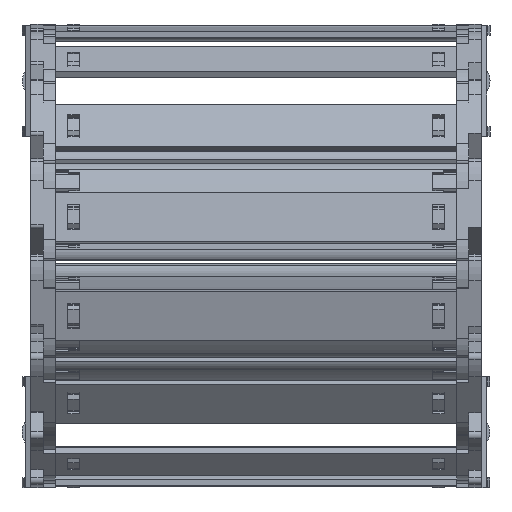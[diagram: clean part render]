
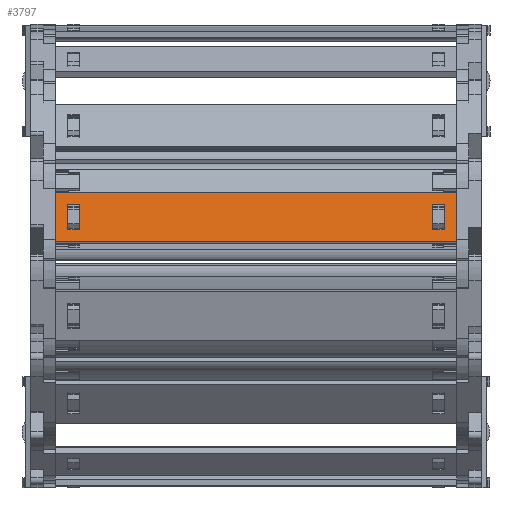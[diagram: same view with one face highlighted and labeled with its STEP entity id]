
A CAD part, top view. The second image highlights one B-rep face of the part: STEP entity #3797.
In plain terms, the highlighted planar face has unit normal (0, 0.174, 0.985) as drawn and (0, 1, 0) by its records, which use the part's own axes.
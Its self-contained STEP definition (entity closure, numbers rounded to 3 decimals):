
#2923=DIRECTION('',(0.,0.,1.));
#2924=VECTOR('',#2923,15.8);
#2925=CARTESIAN_POINT('',(110.74,1.5,-7.9));
#2926=LINE('',#2925,#2924);
#2930=DIRECTION('',(-1.,0.,0.));
#2931=VECTOR('',#2930,125.5);
#2932=CARTESIAN_POINT('',(110.74,1.5,7.9));
#2933=LINE('',#2932,#2931);
#2937=DIRECTION('',(0.,0.,-1.));
#2938=VECTOR('',#2937,15.8);
#2939=CARTESIAN_POINT('',(-14.76,1.5,7.9));
#2940=LINE('',#2939,#2938);
#2944=DIRECTION('',(1.,0.,0.));
#2945=VECTOR('',#2944,3.648);
#2946=CARTESIAN_POINT('',(103.122,1.5,4.075));
#2947=LINE('',#2946,#2945);
#2951=DIRECTION('',(0.,0.,-1.));
#2952=VECTOR('',#2951,8.15);
#2953=CARTESIAN_POINT('',(106.77,1.5,4.075));
#2954=LINE('',#2953,#2952);
#2958=DIRECTION('',(-1.,0.,0.));
#2959=VECTOR('',#2958,3.648);
#2960=CARTESIAN_POINT('',(106.77,1.5,-4.075));
#2961=LINE('',#2960,#2959);
#2965=DIRECTION('',(0.,0.,-1.));
#2966=VECTOR('',#2965,8.15);
#2967=CARTESIAN_POINT('',(-7.142,1.5,4.075));
#2968=LINE('',#2967,#2966);
#2972=DIRECTION('',(-1.,0.,0.));
#2973=VECTOR('',#2972,3.648);
#2974=CARTESIAN_POINT('',(-7.142,1.5,-4.075));
#2975=LINE('',#2974,#2973);
#2979=DIRECTION('',(0.,0.,1.));
#2980=VECTOR('',#2979,8.15);
#2981=CARTESIAN_POINT('',(-10.79,1.5,-4.075));
#2982=LINE('',#2981,#2980);
#2986=DIRECTION('',(1.,0.,0.));
#2987=VECTOR('',#2986,3.648);
#2988=CARTESIAN_POINT('',(-10.79,1.5,4.075));
#2989=LINE('',#2988,#2987);
#3000=DIRECTION('',(-1.,0.,0.));
#3001=VECTOR('',#3000,125.5);
#3002=CARTESIAN_POINT('',(110.74,1.5,-7.9));
#3003=LINE('',#3002,#3001);
#3208=DIRECTION('',(0.,0.,-1.));
#3209=VECTOR('',#3208,8.15);
#3210=CARTESIAN_POINT('',(103.122,1.5,4.075));
#3211=LINE('',#3210,#3209);
#3507=CARTESIAN_POINT('',(106.77,1.5,4.075));
#3508=VERTEX_POINT('',#3507);
#3509=CARTESIAN_POINT('',(103.122,1.5,4.075));
#3510=VERTEX_POINT('',#3509);
#3551=CARTESIAN_POINT('',(103.122,1.5,-4.075));
#3552=VERTEX_POINT('',#3551);
#3553=CARTESIAN_POINT('',(106.77,1.5,-4.075));
#3554=VERTEX_POINT('',#3553);
#3555=CARTESIAN_POINT('',(110.74,1.5,7.9));
#3557=VERTEX_POINT('',#3555);
#3559=CARTESIAN_POINT('',(110.74,1.5,-7.9));
#3560=VERTEX_POINT('',#3559);
#3583=CARTESIAN_POINT('',(-7.142,1.5,4.075));
#3584=CARTESIAN_POINT('',(-7.142,1.5,-4.075));
#3585=VERTEX_POINT('',#3583);
#3586=VERTEX_POINT('',#3584);
#3587=CARTESIAN_POINT('',(-10.79,1.5,-4.075));
#3588=VERTEX_POINT('',#3587);
#3589=CARTESIAN_POINT('',(-10.79,1.5,4.075));
#3590=VERTEX_POINT('',#3589);
#3591=CARTESIAN_POINT('',(-14.76,1.5,7.9));
#3592=VERTEX_POINT('',#3591);
#3595=CARTESIAN_POINT('',(-14.76,1.5,-7.9));
#3596=VERTEX_POINT('',#3595);
#3766=CARTESIAN_POINT('',(142.48,1.5,10.061));
#3767=DIRECTION('',(0.,-1.,0.));
#3768=DIRECTION('',(0.,0.,-1.));
#3769=AXIS2_PLACEMENT_3D('',#3766,#3767,#3768);
#3770=PLANE('',#3769);
#3771=ORIENTED_EDGE('',*,*,#3669,.T.);
#3772=ORIENTED_EDGE('',*,*,#3707,.T.);
#3773=ORIENTED_EDGE('',*,*,#3732,.T.);
#3775=ORIENTED_EDGE('',*,*,#3774,.F.);
#3776=EDGE_LOOP('',(#3771,#3772,#3773,#3775));
#3777=FACE_OUTER_BOUND('',#3776,.F.);
#3779=ORIENTED_EDGE('',*,*,#3778,.F.);
#3780=ORIENTED_EDGE('',*,*,#3608,.T.);
#3782=ORIENTED_EDGE('',*,*,#3781,.T.);
#3784=ORIENTED_EDGE('',*,*,#3783,.T.);
#3785=EDGE_LOOP('',(#3779,#3780,#3782,#3784));
#3786=FACE_BOUND('',#3785,.F.);
#3788=ORIENTED_EDGE('',*,*,#3787,.T.);
#3790=ORIENTED_EDGE('',*,*,#3789,.T.);
#3792=ORIENTED_EDGE('',*,*,#3791,.T.);
#3794=ORIENTED_EDGE('',*,*,#3793,.T.);
#3795=EDGE_LOOP('',(#3788,#3790,#3792,#3794));
#3796=FACE_BOUND('',#3795,.F.);
#3797=ADVANCED_FACE('',(#3777,#3786,#3796),#3770,.F.);
#3608=EDGE_CURVE('',#3510,#3508,#2947,.T.);
#3669=EDGE_CURVE('',#3560,#3557,#2926,.T.);
#3707=EDGE_CURVE('',#3557,#3592,#2933,.T.);
#3732=EDGE_CURVE('',#3592,#3596,#2940,.T.);
#3774=EDGE_CURVE('',#3560,#3596,#3003,.T.);
#3778=EDGE_CURVE('',#3510,#3552,#3211,.T.);
#3781=EDGE_CURVE('',#3508,#3554,#2954,.T.);
#3783=EDGE_CURVE('',#3554,#3552,#2961,.T.);
#3787=EDGE_CURVE('',#3585,#3586,#2968,.T.);
#3789=EDGE_CURVE('',#3586,#3588,#2975,.T.);
#3791=EDGE_CURVE('',#3588,#3590,#2982,.T.);
#3793=EDGE_CURVE('',#3590,#3585,#2989,.T.);
